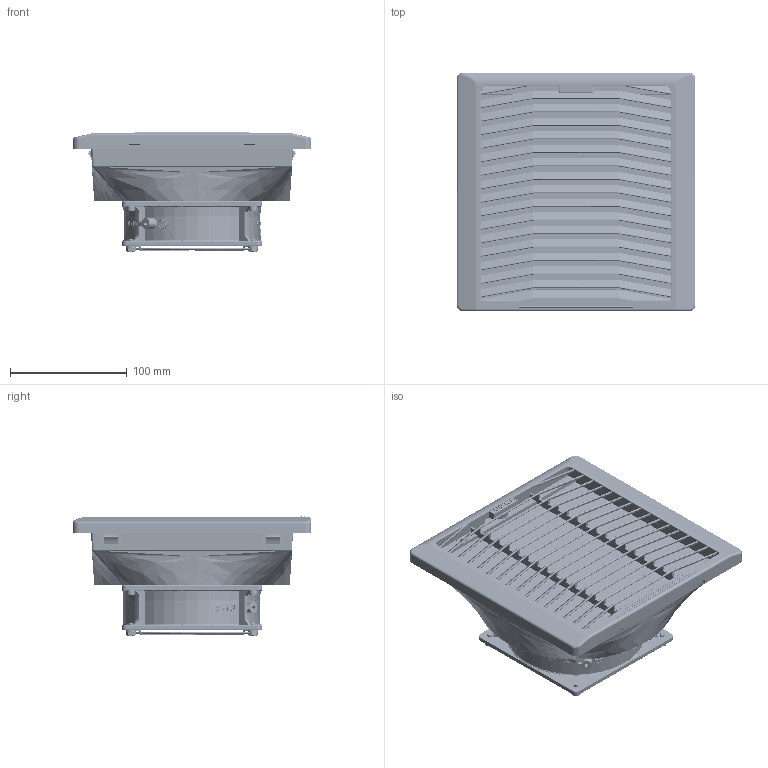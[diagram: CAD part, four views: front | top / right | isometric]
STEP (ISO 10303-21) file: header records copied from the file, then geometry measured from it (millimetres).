
FILE_DESCRIPTION(/* description */ (''),/* implementation_level */ '2;1');
FILE_NAME(/* name */ 'D:\Котлубовский\Впускные решётки\KIPVENT-300.00.000\KIPVENT-300.01.230 Впускная решетка в сборе.stp',/* time_stamp */ '2022-03-29T18:28:24+07:00',/* author */ ('YURY_'),/* organization */ (''),/* preprocessor_version */ 'ST-DEVELOPER v17.2',/* originating_system */ 'Autodesk Inventor 2019',/* authorisation */ '');
FILE_SCHEMA (('AUTOMOTIVE_DESIGN { 1 0 10303 214 3 1 1 }'));
Products named in the file (16): KIPVENT-300.01.230 Впускная решетка 
в сборе; KIPVENT-300.00.000 Впускная решетка 
в сборе; KIPVENT-300.00.000 Корпус; KIPVENT-300.00.000 Решетка; KIPVENT-300.00.000 Фильтр; VENT-12038.220VAC.5MSHB Вентилятор 
в сборе; Корпус VENT-12038.220VAC.5M
SLB; Крышка VENT-12038.220VAC.5M
SLB; Короб штекера 
VENT-12038.220VAC.5MSLB; Планка штекера; Крыльчатка VENT
-12038.220VAC.5MSLB; Табличка VENT-12038.2
20VAC.5MSHB; VENT-120.mg; Шайба 4 ГОСТ 
11371-78; Болт M4-6gx8 ГОСТ 
7805-70; Винт M4-6gx10 ГОСТ 
11738-84
Assembly tree (25 placements, depth 3):
  KIPVENT-300.01.230 Впускная решетка 
в сборе
    KIPVENT-300.00.000 Впускная решетка 
в сборе
      KIPVENT-300.00.000 Корпус
      KIPVENT-300.00.000 Решетка
      KIPVENT-300.00.000 Фильтр
    VENT-12038.220VAC.5MSHB Вентилятор 
в сборе
      Корпус VENT-12038.220VAC.5M
SLB
      Крышка VENT-12038.220VAC.5M
SLB
      Короб штекера 
VENT-12038.220VAC.5MSLB
      Планка штекера  x2
      Крыльчатка VENT
-12038.220VAC.5MSLB
      Табличка VENT-12038.2
20VAC.5MSHB
    VENT-120.mg
    Шайба 4 ГОСТ 
11371-78  x4
    Болт M4-6gx8 ГОСТ 
7805-70  x4
    Винт M4-6gx10 ГОСТ 
11738-84  x4
Bounding box: 205 x 205 x 102.3 mm (x, y, z)
Volume: 711132.2 mm3; surface area: 431869.6 mm2
Topology: 34 solids, 34 shells, 10939 faces, 27545 edges, 17155 vertices
Faces by surface type: plane 4862, bspline 3665, cylinder 1294, cone 527, torus 382, sphere 209
Full cylindrical faces by diameter (mm): 0.01 x1, 1 x2, 1.5 x23, 2 x8, 2.5 x16, 2.884 x1, 3 x2, 3.2 x1, 3.242 x12, 4 x19, 4.1 x8, 4.3 x4, 4.5 x2, 5 x13, 6 x15, 7 x6, 7.5 x1, 8 x4, 8.2 x1, 9 x6, 14 x7, 35 x1, 51 x1, 64.7 x1, 66.7 x1, 68.4 x1, 68.7 x1
Entity records: 382675 total; most frequent: CARTESIAN_POINT 144412, ORIENTED_EDGE 54296, DIRECTION 39539, EDGE_CURVE 27148, VERTEX_POINT 16933, LINE 14275, VECTOR 14275, AXIS2_PLACEMENT_3D 12632
